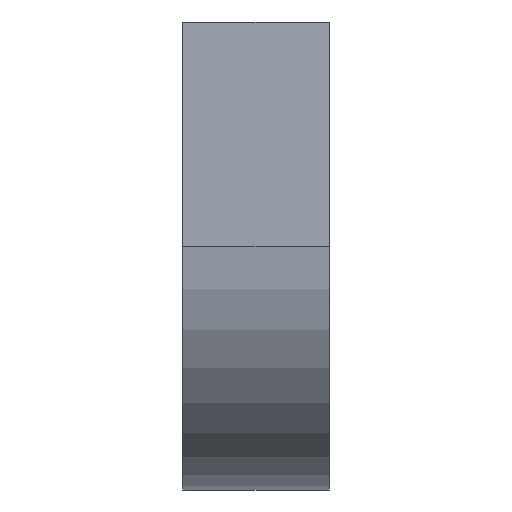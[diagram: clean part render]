
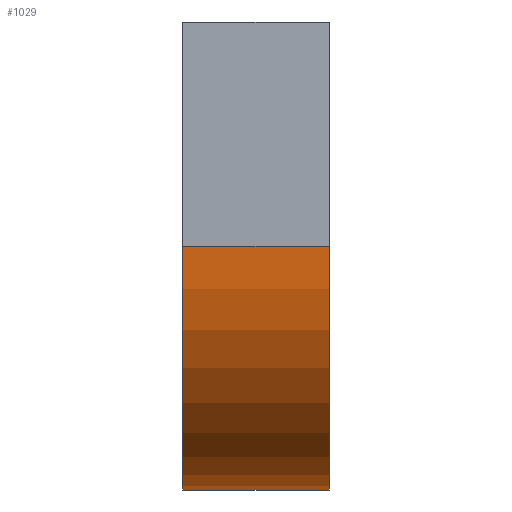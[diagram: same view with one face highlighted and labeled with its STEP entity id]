
A CAD part, front view. The second image highlights one B-rep face of the part: STEP entity #1029.
In plain terms, the highlighted cylindrical face has radius 125 mm (diameter 250 mm), a partial arc.
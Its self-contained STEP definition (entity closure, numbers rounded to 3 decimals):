
#50 = VECTOR ( 'NONE', #1281, 1000. ) ;
#99 = CARTESIAN_POINT ( 'NONE',  ( 37.5, -75., -115. ) ) ;
#184 = DIRECTION ( 'NONE',  ( 0., 0., 1. ) ) ;
#194 = VERTEX_POINT ( 'NONE', #519 ) ;
#242 = EDGE_CURVE ( 'NONE', #1395, #833, #1145, .T. ) ;
#246 = AXIS2_PLACEMENT_3D ( 'NONE', #417, #1171, #925 ) ;
#321 = CARTESIAN_POINT ( 'NONE',  ( -37.5, -75., -115. ) ) ;
#345 = EDGE_CURVE ( 'NONE', #1395, #194, #1484, .T. ) ;
#361 = LINE ( 'NONE', #490, #1537 ) ;
#417 = CARTESIAN_POINT ( 'NONE',  ( 37.5, 50., -115. ) ) ;
#454 = CYLINDRICAL_SURFACE ( 'NONE', #834, 125. ) ;
#490 = CARTESIAN_POINT ( 'NONE',  ( 37.5, 50., -240. ) ) ;
#506 = ORIENTED_EDGE ( 'NONE', *, *, #345, .F. ) ;
#519 = CARTESIAN_POINT ( 'NONE',  ( 37.5, 50., -240. ) ) ;
#539 = DIRECTION ( 'NONE',  ( -1., 0., 0. ) ) ;
#570 = CARTESIAN_POINT ( 'NONE',  ( -37.5, 50., -240. ) ) ;
#676 = VERTEX_POINT ( 'NONE', #570 ) ;
#689 = FACE_OUTER_BOUND ( 'NONE', #907, .T. ) ;
#734 = ORIENTED_EDGE ( 'NONE', *, *, #1451, .T. ) ;
#833 = VERTEX_POINT ( 'NONE', #321 ) ;
#834 = AXIS2_PLACEMENT_3D ( 'NONE', #1453, #539, #930 ) ;
#907 = EDGE_LOOP ( 'NONE', ( #734, #1446, #506, #910 ) ) ;
#910 = ORIENTED_EDGE ( 'NONE', *, *, #242, .T. ) ;
#925 = DIRECTION ( 'NONE',  ( 0., 0., 1. ) ) ;
#930 = DIRECTION ( 'NONE',  ( 0., 0., 1. ) ) ;
#1029 = ADVANCED_FACE ( 'NONE', ( #689 ), #454, .T. ) ;
#1133 = CIRCLE ( 'NONE', #1615, 125. ) ;
#1145 = LINE ( 'NONE', #99, #50 ) ;
#1165 = CARTESIAN_POINT ( 'NONE',  ( 37.5, -75., -115. ) ) ;
#1171 = DIRECTION ( 'NONE',  ( 1., 0., 0. ) ) ;
#1255 = DIRECTION ( 'NONE',  ( -1., 0., 0. ) ) ;
#1281 = DIRECTION ( 'NONE',  ( -1., 0., 0. ) ) ;
#1323 = DIRECTION ( 'NONE',  ( 1., 0., 0. ) ) ;
#1395 = VERTEX_POINT ( 'NONE', #1165 ) ;
#1446 = ORIENTED_EDGE ( 'NONE', *, *, #1587, .F. ) ;
#1451 = EDGE_CURVE ( 'NONE', #833, #676, #1133, .T. ) ;
#1453 = CARTESIAN_POINT ( 'NONE',  ( 37.5, 50., -115. ) ) ;
#1484 = CIRCLE ( 'NONE', #246, 125. ) ;
#1537 = VECTOR ( 'NONE', #1255, 1000. ) ;
#1579 = CARTESIAN_POINT ( 'NONE',  ( -37.5, 50., -115. ) ) ;
#1587 = EDGE_CURVE ( 'NONE', #194, #676, #361, .T. ) ;
#1615 = AXIS2_PLACEMENT_3D ( 'NONE', #1579, #1323, #184 ) ;
